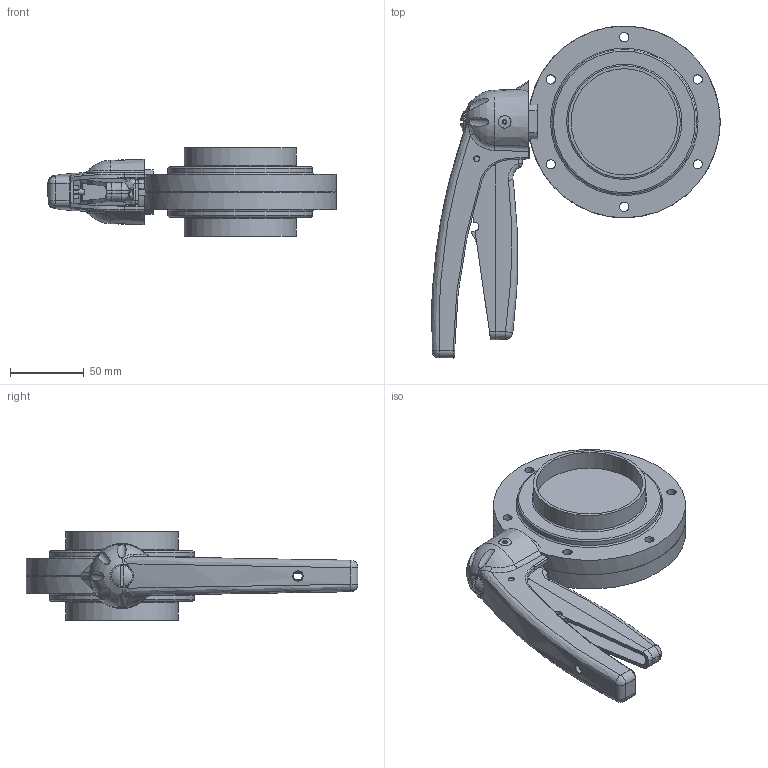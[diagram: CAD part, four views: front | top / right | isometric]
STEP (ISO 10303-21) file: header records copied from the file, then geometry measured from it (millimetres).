
FILE_DESCRIPTION(/* description */ ('VVF VALV.FARF.DN76.1 S/S EPDM 316 LEVA 5POS.'),/* implementation_level */ '2;1');
FILE_NAME(/* name */ 'C:\_DED_PWS\MARZ-M\DB\B\EBA\BEBAAL300BEAA-00^SAGOMA.step',/* time_stamp */ '2018-12-19T15:29:09+01:00',/* author */ (''),/* organization */ (''),/* preprocessor_version */ 'ST-DEVELOPER v17',/* originating_system */ 'Autodesk Inventor 2018',/* authorisation */ '');
FILE_SCHEMA (('CONFIG_CONTROL_DESIGN'));
Length unit declared in the file: millimetre
Products named in the file (3): BEBAAL300BEAA; MEZZO-COR-DN076.1-SALD-INCHES; Maniglia-5-posizioni-nuova-versione finale 01-2008- 25 - - 65
Assembly tree (3 placements, depth 2):
  BEBAAL300BEAA
    MEZZO-COR-DN076.1-SALD-INCHES  x2
    Maniglia-5-posizioni-nuova-versione finale 01-2008- 25 - - 65
Bounding box: 195.39 x 225 x 60 mm (x, y, z)
Volume: 507210.8 mm3; surface area: 135723.6 mm2
Topology: 3 solids, 4 shells, 446 faces, 1197 edges, 776 vertices
Faces by surface type: plane 198, cylinder 106, bspline 81, cone 28, sphere 18, torus 15
Full cylindrical faces by diameter (mm): 4 x3, 6 x2, 6.2 x12, 6.5 x1, 10 x2, 13 x1, 14.5 x1, 72.1 x2, 76.1 x2, 98 x2, 130 x2
Entity records: 22623 total; most frequent: CARTESIAN_POINT 12062, ORIENTED_EDGE 2264, DIRECTION 1926, EDGE_CURVE 1132, VERTEX_POINT 729, AXIS2_PLACEMENT_3D 696, LINE 534, VECTOR 534
